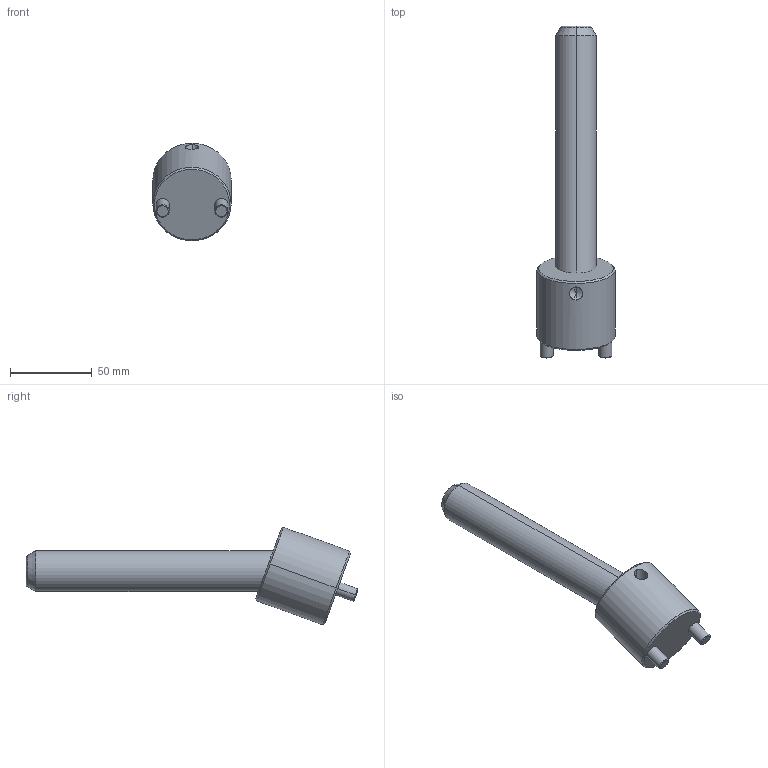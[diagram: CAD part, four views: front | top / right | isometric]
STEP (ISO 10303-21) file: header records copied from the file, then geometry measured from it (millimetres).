
FILE_DESCRIPTION(('CATIA V5 STEP Exchange'),'2;1');
FILE_NAME('C:\Users\Raffaele\Desktop\3D BOLEX\3D FILES CF BOLEX\19-INCLINED ASSEMBLY REF_CI\CI2025150.stp','2019-06-24T06:44:02+00:00',('none'),('none'),'CATIA Version 5 Release 20 GA (IN-10)','CATIA V5 STEP AP203','none');
FILE_SCHEMA(('CONFIG_CONTROL_DESIGN'));
Length unit declared in the file: millimetre
Products named in the file (1): CI2025150
Assembly tree (2 placements, depth 2):
  CI2025150
    #58
    #605
Bounding box: 48 x 203.47 x 59.81 mm (x, y, z)
Volume: 152791.4 mm3; surface area: 29312.5 mm2
Topology: 2 solids, 2 shells, 39 faces, 82 edges, 47 vertices
Faces by surface type: cone 14, cylinder 14, plane 7, torus 4
Entity records: 1524 total; most frequent: CARTESIAN_POINT 665, ORIENTED_EDGE 160, DIRECTION 145, EDGE_CURVE 80, AXIS2_PLACEMENT_3D 72, VERTEX_POINT 47, EDGE_LOOP 43, ADVANCED_FACE 39
